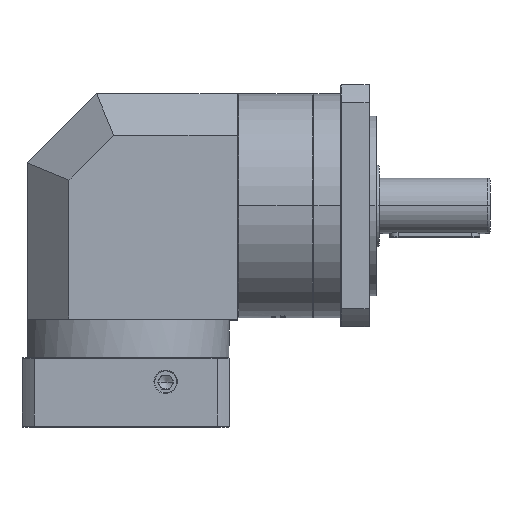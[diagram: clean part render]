
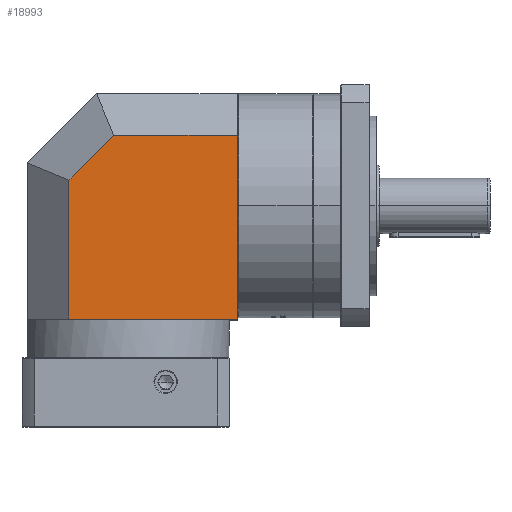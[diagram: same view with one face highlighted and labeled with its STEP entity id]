
A CAD part, top view. The second image highlights one B-rep face of the part: STEP entity #18993.
In plain terms, the highlighted planar face has unit normal (0, 0, 1).
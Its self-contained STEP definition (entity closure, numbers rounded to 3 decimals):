
#958 = EDGE_CURVE ( 'NONE', #113190, #93053, #82278, .T. ) ;
#11204 = CARTESIAN_POINT ( 'NONE',  ( 6.695, -56.632, 333.482 ) ) ;
#12568 = CARTESIAN_POINT ( 'NONE',  ( 82.295, -137.882, 333.482 ) ) ;
#13985 = ORIENTED_EDGE ( 'NONE', *, *, #34647, .T. ) ;
#16390 = DIRECTION ( 'NONE',  ( 1., 0., 0. ) ) ;
#18993 = ADVANCED_FACE ( 'NONE', ( #44127 ), #22131, .T. ) ;
#22131 = PLANE ( 'NONE',  #79243 ) ;
#27064 = VERTEX_POINT ( 'NONE', #83504 ) ;
#29004 = DIRECTION ( 'NONE',  ( 0., -1., 0. ) ) ;
#32231 = CARTESIAN_POINT ( 'NONE',  ( -39.405, -56.632, 333.482 ) ) ;
#32278 = ORIENTED_EDGE ( 'NONE', *, *, #958, .T. ) ;
#34647 = EDGE_CURVE ( 'NONE', #136594, #146986, #71621, .T. ) ;
#35482 = VECTOR ( 'NONE', #29004, 1000. ) ;
#44127 = FACE_OUTER_BOUND ( 'NONE', #90537, .T. ) ;
#47049 = DIRECTION ( 'NONE',  ( 0., 0., 1. ) ) ;
#51380 = DIRECTION ( 'NONE',  ( -0.707, -0.707, 0. ) ) ;
#53310 = DIRECTION ( 'NONE',  ( 1., 0., 0. ) ) ;
#56652 = LINE ( 'NONE', #134881, #60311 ) ;
#57135 = CARTESIAN_POINT ( 'NONE',  ( -6.978, -4.882, 333.482 ) ) ;
#60311 = VECTOR ( 'NONE', #16390, 1000. ) ;
#62397 = LINE ( 'NONE', #32231, #77314 ) ;
#63581 = EDGE_CURVE ( 'NONE', #27064, #93053, #87504, .T. ) ;
#63888 = ORIENTED_EDGE ( 'NONE', *, *, #63581, .F. ) ;
#71621 = LINE ( 'NONE', #147593, #86540 ) ;
#76239 = EDGE_CURVE ( 'NONE', #146986, #113190, #62397, .T. ) ;
#77314 = VECTOR ( 'NONE', #78445, 1000. ) ;
#78445 = DIRECTION ( 'NONE',  ( 0., -1., 0. ) ) ;
#79243 = AXIS2_PLACEMENT_3D ( 'NONE', #11204, #47049, #130232 ) ;
#82278 = LINE ( 'NONE', #121988, #110249 ) ;
#83050 = CARTESIAN_POINT ( 'NONE',  ( -39.405, -137.882, 333.482 ) ) ;
#83504 = CARTESIAN_POINT ( 'NONE',  ( 82.295, -4.882, 333.482 ) ) ;
#86540 = VECTOR ( 'NONE', #51380, 1000. ) ;
#87504 = LINE ( 'NONE', #113195, #35482 ) ;
#90537 = EDGE_LOOP ( 'NONE', ( #32278, #63888, #97451, #13985, #92635 ) ) ;
#92635 = ORIENTED_EDGE ( 'NONE', *, *, #76239, .T. ) ;
#93053 = VERTEX_POINT ( 'NONE', #12568 ) ;
#94139 = EDGE_CURVE ( 'NONE', #136594, #27064, #56652, .T. ) ;
#97451 = ORIENTED_EDGE ( 'NONE', *, *, #94139, .F. ) ;
#110249 = VECTOR ( 'NONE', #53310, 1000. ) ;
#113190 = VERTEX_POINT ( 'NONE', #83050 ) ;
#113195 = CARTESIAN_POINT ( 'NONE',  ( 82.295, -56.632, 333.482 ) ) ;
#121988 = CARTESIAN_POINT ( 'NONE',  ( 6.695, -137.882, 333.482 ) ) ;
#130232 = DIRECTION ( 'NONE',  ( 1., 0., 0. ) ) ;
#132863 = CARTESIAN_POINT ( 'NONE',  ( -39.405, -37.309, 333.482 ) ) ;
#134881 = CARTESIAN_POINT ( 'NONE',  ( 6.695, -4.882, 333.482 ) ) ;
#136594 = VERTEX_POINT ( 'NONE', #57135 ) ;
#146986 = VERTEX_POINT ( 'NONE', #132863 ) ;
#147593 = CARTESIAN_POINT ( 'NONE',  ( -6.978, -4.882, 333.482 ) ) ;
